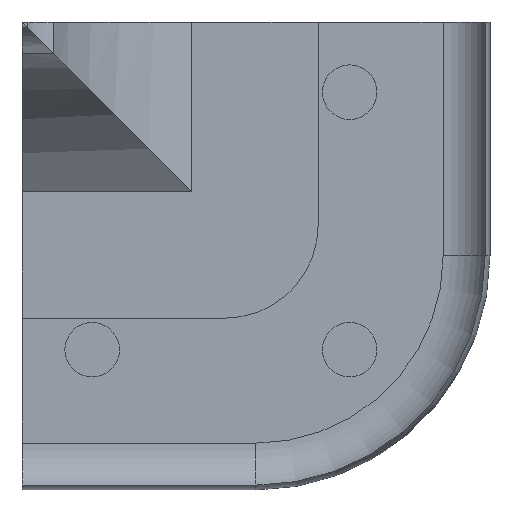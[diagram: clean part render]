
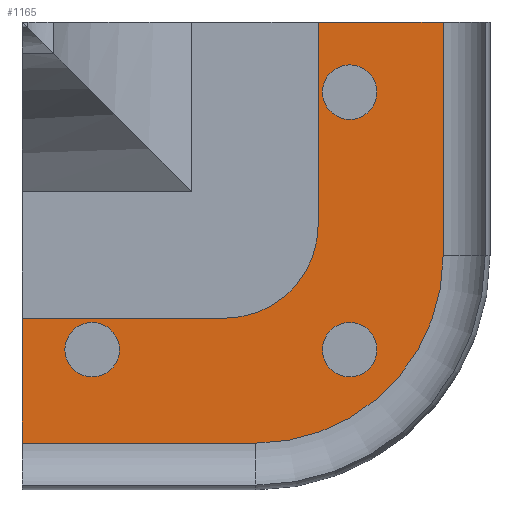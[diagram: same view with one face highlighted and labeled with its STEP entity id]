
A CAD part, front view. The second image highlights one B-rep face of the part: STEP entity #1165.
In plain terms, the highlighted planar face has unit normal (0, -1, 0).
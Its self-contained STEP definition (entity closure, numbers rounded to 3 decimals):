
#29 = CARTESIAN_POINT ( 'NONE',  ( -15., 0., -15. ) ) ;
#39 = VERTEX_POINT ( 'NONE', #984 ) ;
#40 = AXIS2_PLACEMENT_3D ( 'NONE', #1536, #168, #1378 ) ;
#47 = CARTESIAN_POINT ( 'NONE',  ( -25.5, 0., -21.02 ) ) ;
#57 = CARTESIAN_POINT ( 'NONE',  ( -30., 0., -27.016 ) ) ;
#68 = VERTEX_POINT ( 'NONE', #1460 ) ;
#100 = LINE ( 'NONE', #1017, #1752 ) ;
#109 = DIRECTION ( 'NONE',  ( 0., 1., 0. ) ) ;
#144 = ORIENTED_EDGE ( 'NONE', *, *, #1176, .T. ) ;
#149 = VECTOR ( 'NONE', #1368, 1000. ) ;
#153 = VERTEX_POINT ( 'NONE', #265 ) ;
#168 = DIRECTION ( 'NONE',  ( 0., 1., 0. ) ) ;
#186 = CARTESIAN_POINT ( 'NONE',  ( -15., 0., -27.016 ) ) ;
#203 = CARTESIAN_POINT ( 'NONE',  ( -2.984, 0., 0. ) ) ;
#245 = DIRECTION ( 'NONE',  ( 0., 0., 1. ) ) ;
#265 = CARTESIAN_POINT ( 'NONE',  ( -17., 0., -19. ) ) ;
#273 = DIRECTION ( 'NONE',  ( 0., 0., 1. ) ) ;
#274 = VERTEX_POINT ( 'NONE', #1813 ) ;
#327 = DIRECTION ( 'NONE',  ( 0., 1., 0. ) ) ;
#369 = ORIENTED_EDGE ( 'NONE', *, *, #636, .T. ) ;
#393 = FACE_BOUND ( 'NONE', #1366, .T. ) ;
#458 = DIRECTION ( 'NONE',  ( -1., 0., 0. ) ) ;
#463 = DIRECTION ( 'NONE',  ( 0., 0., 1. ) ) ;
#483 = DIRECTION ( 'NONE',  ( -1., 0., 0. ) ) ;
#517 = ORIENTED_EDGE ( 'NONE', *, *, #648, .F. ) ;
#537 = CIRCLE ( 'NONE', #831, 12.016 ) ;
#599 = CIRCLE ( 'NONE', #1746, 6. ) ;
#602 = CIRCLE ( 'NONE', #793, 1.75 ) ;
#622 = EDGE_CURVE ( 'NONE', #1686, #153, #599, .T. ) ;
#636 = EDGE_CURVE ( 'NONE', #1025, #1025, #897, .T. ) ;
#648 = EDGE_CURVE ( 'NONE', #39, #978, #1486, .T. ) ;
#658 = DIRECTION ( 'NONE',  ( 0., 1., 0. ) ) ;
#699 = DIRECTION ( 'NONE',  ( 1., 0., 0. ) ) ;
#701 = VECTOR ( 'NONE', #483, 1000. ) ;
#720 = FACE_BOUND ( 'NONE', #1846, .T. ) ;
#728 = CARTESIAN_POINT ( 'NONE',  ( -30., 0., -28. ) ) ;
#746 = ORIENTED_EDGE ( 'NONE', *, *, #950, .T. ) ;
#779 = DIRECTION ( 'NONE',  ( 0., 1., 0. ) ) ;
#793 = AXIS2_PLACEMENT_3D ( 'NONE', #47, #658, #1585 ) ;
#811 = ORIENTED_EDGE ( 'NONE', *, *, #864, .F. ) ;
#831 = AXIS2_PLACEMENT_3D ( 'NONE', #29, #779, #463 ) ;
#833 = CARTESIAN_POINT ( 'NONE',  ( -7.5, 0., 0. ) ) ;
#846 = DIRECTION ( 'NONE',  ( 0., 1., 0. ) ) ;
#864 = EDGE_CURVE ( 'NONE', #1357, #39, #537, .T. ) ;
#877 = CARTESIAN_POINT ( 'NONE',  ( -17., 0., -13. ) ) ;
#885 = VERTEX_POINT ( 'NONE', #1335 ) ;
#895 = CARTESIAN_POINT ( 'NONE',  ( -11., 0., -13. ) ) ;
#897 = CIRCLE ( 'NONE', #40, 1.75 ) ;
#904 = EDGE_LOOP ( 'NONE', ( #746 ) ) ;
#907 = CARTESIAN_POINT ( 'NONE',  ( -8.98, 0., -19.27 ) ) ;
#908 = LINE ( 'NONE', #895, #149 ) ;
#915 = CARTESIAN_POINT ( 'NONE',  ( -2.984, 0., -15. ) ) ;
#950 = EDGE_CURVE ( 'NONE', #274, #274, #602, .T. ) ;
#962 = VECTOR ( 'NONE', #699, 1000. ) ;
#970 = CARTESIAN_POINT ( 'NONE',  ( -30., 0., -19. ) ) ;
#978 = VERTEX_POINT ( 'NONE', #57 ) ;
#984 = CARTESIAN_POINT ( 'NONE',  ( -15., 0., -27.016 ) ) ;
#1004 = CARTESIAN_POINT ( 'NONE',  ( -8.98, 0., -4.5 ) ) ;
#1005 = DIRECTION ( 'NONE',  ( 0., 0., 1. ) ) ;
#1008 = ORIENTED_EDGE ( 'NONE', *, *, #1860, .F. ) ;
#1011 = VERTEX_POINT ( 'NONE', #203 ) ;
#1014 = EDGE_CURVE ( 'NONE', #153, #1431, #1263, .T. ) ;
#1017 = CARTESIAN_POINT ( 'NONE',  ( -2.984, 0., -15. ) ) ;
#1025 = VERTEX_POINT ( 'NONE', #907 ) ;
#1090 = CIRCLE ( 'NONE', #1658, 1.75 ) ;
#1109 = EDGE_CURVE ( 'NONE', #978, #1431, #1148, .T. ) ;
#1148 = LINE ( 'NONE', #728, #1882 ) ;
#1165 = ADVANCED_FACE ( 'NONE', ( #1470, #393, #720, #1619 ), #1774, .F. ) ;
#1176 = EDGE_CURVE ( 'NONE', #1357, #1011, #100, .T. ) ;
#1263 = LINE ( 'NONE', #1867, #701 ) ;
#1284 = DIRECTION ( 'NONE',  ( 0., 0., 1. ) ) ;
#1321 = EDGE_CURVE ( 'NONE', #1686, #68, #908, .T. ) ;
#1335 = CARTESIAN_POINT ( 'NONE',  ( -8.98, 0., -2.75 ) ) ;
#1357 = VERTEX_POINT ( 'NONE', #915 ) ;
#1366 = EDGE_LOOP ( 'NONE', ( #369 ) ) ;
#1368 = DIRECTION ( 'NONE',  ( 0., 0., 1. ) ) ;
#1378 = DIRECTION ( 'NONE',  ( 0., 0., 1. ) ) ;
#1431 = VERTEX_POINT ( 'NONE', #970 ) ;
#1433 = ORIENTED_EDGE ( 'NONE', *, *, #1109, .F. ) ;
#1460 = CARTESIAN_POINT ( 'NONE',  ( -11., 0., 0. ) ) ;
#1470 = FACE_BOUND ( 'NONE', #904, .T. ) ;
#1479 = DIRECTION ( 'NONE',  ( 0., 0., 1. ) ) ;
#1486 = LINE ( 'NONE', #186, #1523 ) ;
#1505 = ORIENTED_EDGE ( 'NONE', *, *, #1885, .T. ) ;
#1520 = CARTESIAN_POINT ( 'NONE',  ( -17., 0., -13. ) ) ;
#1523 = VECTOR ( 'NONE', #458, 1000. ) ;
#1536 = CARTESIAN_POINT ( 'NONE',  ( -8.98, 0., -21.02 ) ) ;
#1585 = DIRECTION ( 'NONE',  ( 0., 0., 1. ) ) ;
#1619 = FACE_OUTER_BOUND ( 'NONE', #1695, .T. ) ;
#1658 = AXIS2_PLACEMENT_3D ( 'NONE', #1004, #109, #1284 ) ;
#1678 = ORIENTED_EDGE ( 'NONE', *, *, #622, .T. ) ;
#1686 = VERTEX_POINT ( 'NONE', #1797 ) ;
#1695 = EDGE_LOOP ( 'NONE', ( #1008, #1935, #1678, #1802, #1433, #517, #811, #144 ) ) ;
#1746 = AXIS2_PLACEMENT_3D ( 'NONE', #1520, #327, #273 ) ;
#1752 = VECTOR ( 'NONE', #1005, 1000. ) ;
#1763 = LINE ( 'NONE', #833, #962 ) ;
#1774 = PLANE ( 'NONE',  #1914 ) ;
#1797 = CARTESIAN_POINT ( 'NONE',  ( -11., 0., -13. ) ) ;
#1802 = ORIENTED_EDGE ( 'NONE', *, *, #1014, .T. ) ;
#1813 = CARTESIAN_POINT ( 'NONE',  ( -25.5, 0., -19.27 ) ) ;
#1846 = EDGE_LOOP ( 'NONE', ( #1505 ) ) ;
#1860 = EDGE_CURVE ( 'NONE', #68, #1011, #1763, .T. ) ;
#1867 = CARTESIAN_POINT ( 'NONE',  ( -17., 0., -19. ) ) ;
#1882 = VECTOR ( 'NONE', #245, 1000. ) ;
#1885 = EDGE_CURVE ( 'NONE', #885, #885, #1090, .T. ) ;
#1914 = AXIS2_PLACEMENT_3D ( 'NONE', #877, #846, #1479 ) ;
#1935 = ORIENTED_EDGE ( 'NONE', *, *, #1321, .F. ) ;
